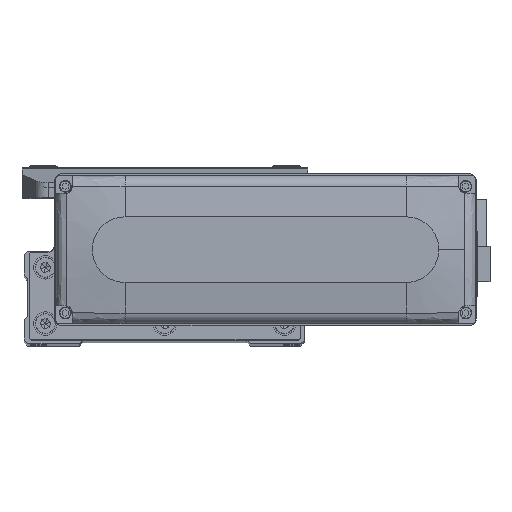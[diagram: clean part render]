
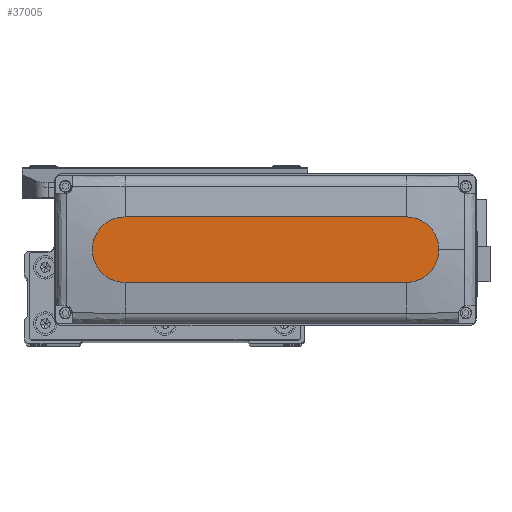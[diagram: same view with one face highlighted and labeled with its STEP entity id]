
A CAD part, top view. The second image highlights one B-rep face of the part: STEP entity #37005.
In plain terms, the highlighted planar face has unit normal (0, 0, 1).
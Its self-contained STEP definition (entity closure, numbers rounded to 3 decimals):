
#768 = DIRECTION ( 'NONE',  ( 0., 0., 1. ) ) ;
#1045 = EDGE_CURVE ( 'NONE', #34069, #42273, #6385, .T. ) ;
#1377 = PLANE ( 'NONE',  #8404 ) ;
#3264 = CIRCLE ( 'NONE', #28378, 14. ) ;
#4426 = VECTOR ( 'NONE', #8767, 1000. ) ;
#5340 = EDGE_CURVE ( 'NONE', #42273, #23054, #33467, .T. ) ;
#6385 = LINE ( 'NONE', #20104, #42015 ) ;
#8404 = AXIS2_PLACEMENT_3D ( 'NONE', #15111, #28803, #42516 ) ;
#8767 = DIRECTION ( 'NONE',  ( 1., 0., 0. ) ) ;
#9060 = CARTESIAN_POINT ( 'NONE',  ( -60., -14., 28.5 ) ) ;
#9091 = VERTEX_POINT ( 'NONE', #25266 ) ;
#9141 = EDGE_CURVE ( 'NONE', #15722, #9091, #3264, .T. ) ;
#10999 = CARTESIAN_POINT ( 'NONE',  ( -60., 14., 28.5 ) ) ;
#11752 = CIRCLE ( 'NONE', #36850, 14. ) ;
#11780 = DIRECTION ( 'NONE',  ( 0., 0., 1. ) ) ;
#14112 = AXIS2_PLACEMENT_3D ( 'NONE', #14595, #28294, #42019 ) ;
#14487 = DIRECTION ( 'NONE',  ( 1., 0., 0. ) ) ;
#14595 = CARTESIAN_POINT ( 'NONE',  ( -60., 0., 28.5 ) ) ;
#14805 = EDGE_CURVE ( 'NONE', #9091, #34069, #11752, .T. ) ;
#15111 = CARTESIAN_POINT ( 'NONE',  ( 0., 0., 28.5 ) ) ;
#15121 = ORIENTED_EDGE ( 'NONE', *, *, #9141, .T. ) ;
#15722 = VERTEX_POINT ( 'NONE', #24829 ) ;
#18447 = ORIENTED_EDGE ( 'NONE', *, *, #40227, .T. ) ;
#20104 = CARTESIAN_POINT ( 'NONE',  ( -60., 14., 28.5 ) ) ;
#23054 = VERTEX_POINT ( 'NONE', #9060 ) ;
#23248 = ORIENTED_EDGE ( 'NONE', *, *, #5340, .T. ) ;
#24829 = CARTESIAN_POINT ( 'NONE',  ( 60., -14., 28.5 ) ) ;
#25266 = CARTESIAN_POINT ( 'NONE',  ( 74., 0., 28.5 ) ) ;
#25411 = CARTESIAN_POINT ( 'NONE',  ( 60., 14., 28.5 ) ) ;
#25483 = DIRECTION ( 'NONE',  ( 1., 0., 0. ) ) ;
#25845 = LINE ( 'NONE', #39554, #4426 ) ;
#28294 = DIRECTION ( 'NONE',  ( 0., 0., 1. ) ) ;
#28378 = AXIS2_PLACEMENT_3D ( 'NONE', #42576, #11780, #25483 ) ;
#28803 = DIRECTION ( 'NONE',  ( 0., 0., 1. ) ) ;
#31558 = CARTESIAN_POINT ( 'NONE',  ( 60., 0., 28.5 ) ) ;
#32161 = FACE_OUTER_BOUND ( 'NONE', #44291, .T. ) ;
#33338 = ORIENTED_EDGE ( 'NONE', *, *, #14805, .T. ) ;
#33467 = CIRCLE ( 'NONE', #14112, 14. ) ;
#33787 = DIRECTION ( 'NONE',  ( -1., 0., 0. ) ) ;
#34069 = VERTEX_POINT ( 'NONE', #25411 ) ;
#36850 = AXIS2_PLACEMENT_3D ( 'NONE', #31558, #768, #14487 ) ;
#37005 = ADVANCED_FACE ( 'NONE', ( #32161 ), #1377, .T. ) ;
#37243 = ORIENTED_EDGE ( 'NONE', *, *, #1045, .T. ) ;
#39554 = CARTESIAN_POINT ( 'NONE',  ( -60., -14., 28.5 ) ) ;
#40227 = EDGE_CURVE ( 'NONE', #23054, #15722, #25845, .T. ) ;
#42015 = VECTOR ( 'NONE', #33787, 1000. ) ;
#42019 = DIRECTION ( 'NONE',  ( 1., 0., 0. ) ) ;
#42273 = VERTEX_POINT ( 'NONE', #10999 ) ;
#42516 = DIRECTION ( 'NONE',  ( 1., 0., 0. ) ) ;
#42576 = CARTESIAN_POINT ( 'NONE',  ( 60., 0., 28.5 ) ) ;
#44291 = EDGE_LOOP ( 'NONE', ( #37243, #23248, #18447, #15121, #33338 ) ) ;
